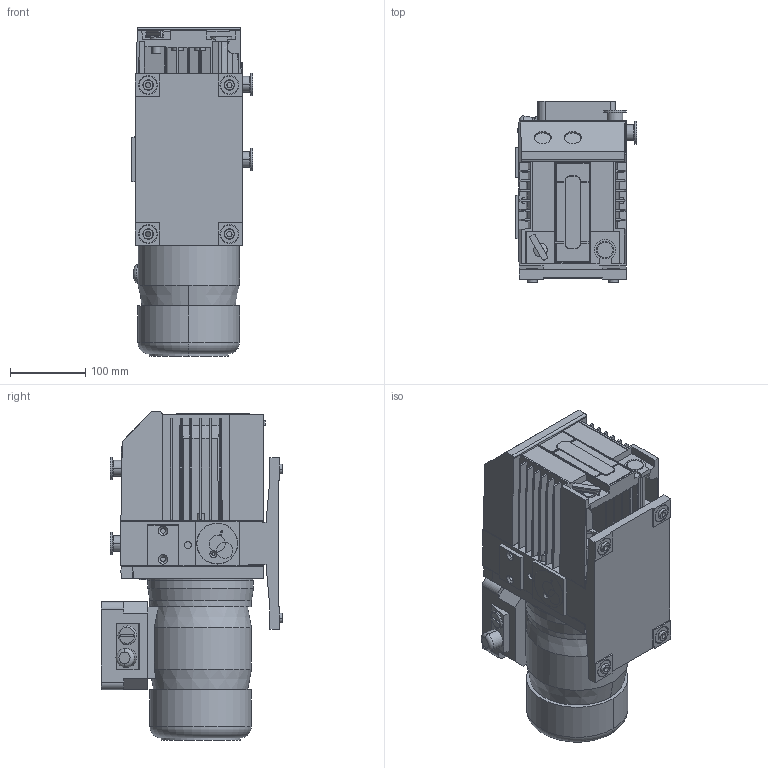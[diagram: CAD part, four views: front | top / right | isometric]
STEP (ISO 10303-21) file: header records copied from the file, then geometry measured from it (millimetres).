
FILE_DESCRIPTION((''),'2;1');
FILE_NAME('300594106_Y19_000_ASM','2016-03-09T',('56762'),('Copyright by Leybold GmbH'),'PRO/ENGINEER BY PARAMETRIC TECHNOLOGY CORPORATION, 2013320','PRO/ENGINEER BY PARAMETRIC TECHNOLOGY CORPORATION, 2013320','');
FILE_SCHEMA(('AUTOMOTIVE_DESIGN { 1 0 10303 214 1 1 1 1 }'));
Length unit declared in the file: millimetre
Products named in the file (22): 300594107_Y19_000; 300593834_Y19_000; 300593835_Y19_000; 300593838_Y19_000; 300594098_Y19_000; 300593851_Y19_000; 300593842_Y19_000; 300590946_Y19_000; 300593840_Y19_000; 300593852_Y19_000; 300594105_Y19_000_ASM; 300590938_Y19_000; 300593703_Y19_000; 300590935_Y19_000; 300590920_Y19_000; 300590916_Y19_000; 300590915_Y19_000; 300590913_Y19_000; 300590922_Y19_000_ASM; 300593862_Y19_000; 300593863_Y19_000; 300594106_Y19_000_ASM
Assembly tree (29 placements, depth 3):
  300594106_Y19_000_ASM
    300594105_Y19_000_ASM
      300594107_Y19_000
      300593834_Y19_000
      300593835_Y19_000
      300593838_Y19_000
      300594098_Y19_000
      300593851_Y19_000
      300593842_Y19_000
      300590946_Y19_000
      300593840_Y19_000
      300593852_Y19_000
    300590938_Y19_000  x4
    300593703_Y19_000
    300590935_Y19_000  x3
    300590922_Y19_000_ASM
      300590920_Y19_000
      300590916_Y19_000
      300590915_Y19_000
      300590913_Y19_000
    300593862_Y19_000  x4
    300593863_Y19_000
Bounding box: 161.4 x 241 x 436.34 mm (x, y, z)
Volume: 9563066.8 mm3; surface area: 845807.1 mm2
Topology: 26 solids, 42 shells, 1156 faces, 2914 edges, 1903 vertices
Faces by surface type: plane 729, cylinder 280, cone 139, torus 8
Entity records: 30275 total; most frequent: CARTESIAN_POINT 5677, DIRECTION 4904, ORIENTED_EDGE 4788, EDGE_CURVE 2394, VECTOR 1734, LINE 1734, AXIS2_PLACEMENT_3D 1585, VERTEX_POINT 1567
